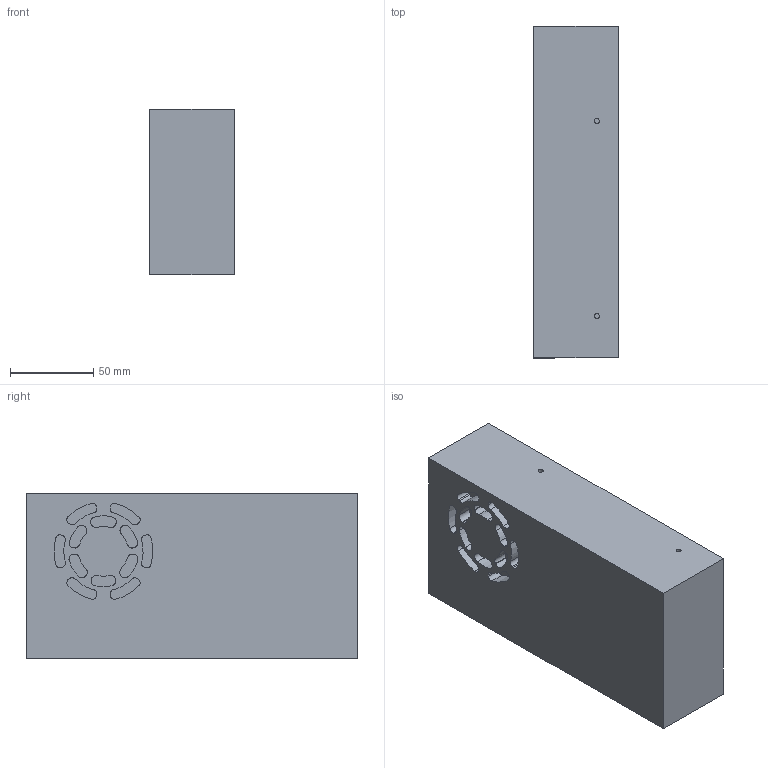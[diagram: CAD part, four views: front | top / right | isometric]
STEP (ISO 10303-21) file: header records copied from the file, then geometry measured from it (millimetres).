
FILE_DESCRIPTION(/* description */ (''),/* implementation_level */ '2;1');
FILE_NAME(/* name */ 'FUENTE~1',/* time_stamp */ '2019-04-01T20:01:21-03:00',/* author */ (''),/* organization */ (''),/* preprocessor_version */ 'ST-DEVELOPER v16.5',/* originating_system */ '',/* authorisation */ '');
FILE_SCHEMA (('AUTOMOTIVE_DESIGN'));
Length unit declared in the file: millimetre
Products named in the file (1): Document
Bounding box: 51 x 199.27 x 99.61 mm (x, y, z)
Volume: 1001480.2 mm3; surface area: 75029.5 mm2
Topology: 1 solids, 1 shells, 126 faces, 324 edges, 216 vertices
Faces by surface type: bspline 104, plane 22
Entity records: 3665 total; most frequent: CARTESIAN_POINT 1976, ORIENTED_EDGE 648, EDGE_CURVE 324, VERTEX_POINT 216, EDGE_LOOP 142, ADVANCED_FACE 126, FACE_OUTER_BOUND 126, DIRECTION 26
